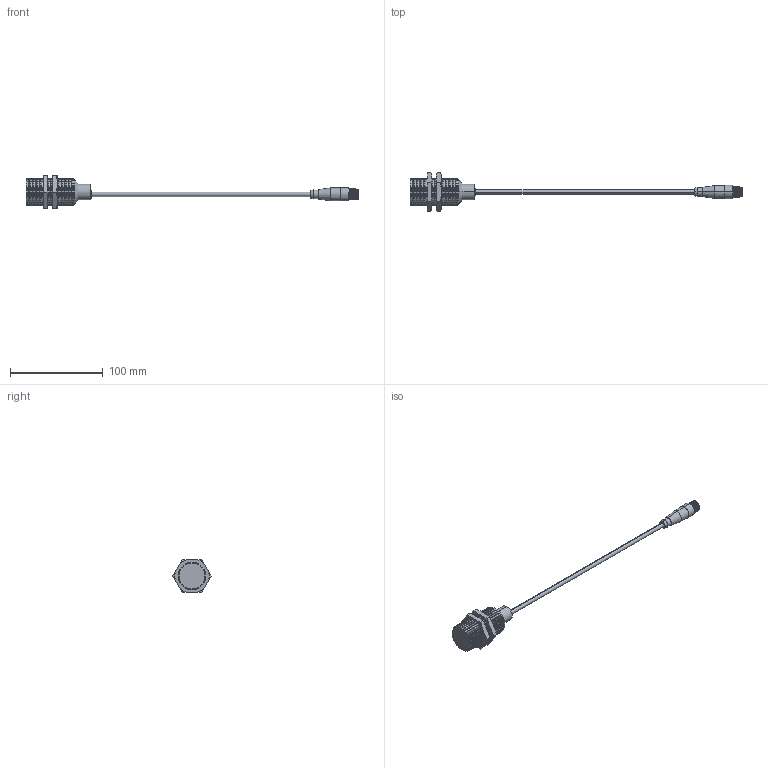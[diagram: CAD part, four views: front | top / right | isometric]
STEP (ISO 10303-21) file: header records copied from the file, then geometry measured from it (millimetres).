
FILE_DESCRIPTION (( 'STEP AP203' ), '1' );
FILE_NAME ('90-XXXX-033.STEP', '2015-10-28T13:22:41', ( 'Sam' ), ( 'Spade' ), 'SwSTEP 2.0', 'SolidWorks 2002296', '' );
FILE_SCHEMA (( 'CONFIG_CONTROL_DESIGN' ));
Length unit declared in the file: inch
Products named in the file (13): 90-XXXX-033; Imported330; Imported329; Imported328; Imported327; Imported326; Imported325; Imported324; Imported332; 49-9065; Imported333; Imported331; Imported334
Assembly tree (12 placements, depth 2):
  90-XXXX-033
    Imported331
    Imported329
    Imported324
    Imported333
    Imported330
    Imported326
    Imported325
    Imported334
    Imported332
    49-9065
    Imported328
    Imported327
Bounding box: 358.81 x 41.15 x 35.64 mm (x, y, z)
Volume: 53551.2 mm3; surface area: 25711.6 mm2
Topology: 12 solids, 12 shells, 446 faces, 941 edges, 535 vertices
Faces by surface type: cone 212, cylinder 117, plane 61, bspline 56
Entity records: 14390 total; most frequent: CARTESIAN_POINT 3525, DIRECTION 2141, ORIENTED_EDGE 1870, EDGE_CURVE 935, AXIS2_PLACEMENT_3D 879, VERTEX_POINT 535, EDGE_LOOP 476, CIRCLE 474
